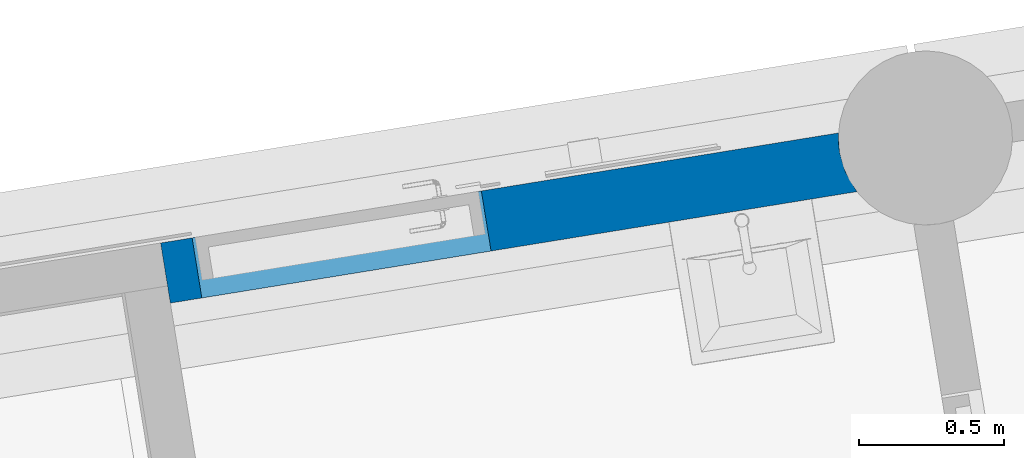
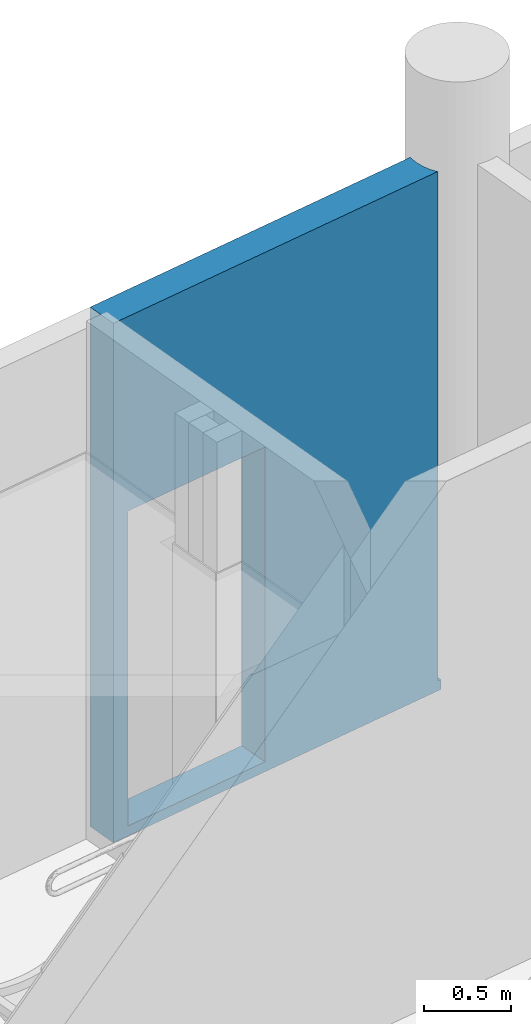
# One storey, part 26 of 38: 1 wall, 1 opening.
"""IFC2X3 building model written with IfcOpenShell, lengths in millimetres."""

from ifc_helpers import new_model, entity, si_unit, converted_unit, derived_unit, direction, frame, frame_2d, origin, origin_with_axes, place, context, subcontext, project, spatial, rectangle, extrude, faceted_brep, material, layer, layer_set, type_object, element, save


model = new_model("IFC2X3")

# Units and contexts
model_context = context("Model", 3, precision=0.01, world=origin(), true_north=direction((6.12323399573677e-17, 1.0)))
plan_context = context("Plan", 3, precision=1e-05, world=origin_with_axes())
body_context = subcontext(model_context, "Body", "Model", "MODEL_VIEW")
ifc_project = project(units=[converted_unit("PLANEANGLEUNIT", "DEGREE", entity("IfcPositiveLengthMeasure", 0.0174532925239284), si_unit("PLANEANGLEUNIT", "RADIAN"), dimensions=[0, 0, 0, 0, 0, 0, 0]), si_unit("AREAUNIT", "SQUARE_METRE"), si_unit("LENGTHUNIT", "METRE", prefix="MILLI"), si_unit("MASSUNIT", "GRAM", prefix="KILO"), si_unit("POWERUNIT", "WATT"), si_unit("PRESSUREUNIT", "PASCAL", prefix="KILO"), si_unit("FORCEUNIT", "NEWTON", prefix="KILO"), si_unit("ELECTRICVOLTAGEUNIT", "VOLT"), si_unit("ELECTRICCURRENTUNIT", "AMPERE"), si_unit("THERMODYNAMICTEMPERATUREUNIT", "DEGREE_CELSIUS"), si_unit("TIMEUNIT", "SECOND"), si_unit("VOLUMEUNIT", "CUBIC_METRE"), derived_unit("LINEARVELOCITYUNIT", [(si_unit("LENGTHUNIT", "METRE"), 1), (si_unit("TIMEUNIT", "SECOND"), -1)]), derived_unit("VOLUMETRICFLOWRATEUNIT", [(si_unit("VOLUMEUNIT", "CUBIC_METRE"), 1), (si_unit("TIMEUNIT", "SECOND"), -1)]), derived_unit("THERMALTRANSMITTANCEUNIT", [(si_unit("POWERUNIT", "WATT"), 1), (si_unit("THERMODYNAMICTEMPERATUREUNIT", "KELVIN"), -1), (si_unit("AREAUNIT", "SQUARE_METRE"), -1)]), derived_unit("SOUNDPRESSUREUNIT", [(si_unit("PRESSUREUNIT", "PASCAL"), 1)])], contexts=[model_context, plan_context])

# Site, building, storey
site_placement = place(None, frame((-0.00071070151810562, 0.00438415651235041, 0.0), z_axis=(0.0, 0.0, 1.0), x_axis=(-0.160236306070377, 0.987078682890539, 0.0)))
site = spatial("IfcSite", under=ifc_project, at=site_placement, Name="Default", CompositionType="ELEMENT")
building_placement = place(site_placement, origin_with_axes())
building = spatial("IfcBuilding", under=site, at=building_placement, Name="TOO", CompositionType="ELEMENT")
storey_placement = place(building_placement, frame((0.0, 0.0, 50999.9999999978), z_axis=(0.0, 0.0, 1.0), x_axis=(1.0, 0.0, 0.0)))
storey = spatial("IfcBuildingStorey", under=building, at=storey_placement, Name="Nivå D-H01", CompositionType="ELEMENT", Elevation=50999.9999999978)

# Wall, opening
ifc_material_1 = material(Name="A240 - Gipsplate")
ifc_layer_1 = layer(ifc_material_1, 12.5)
ifc_layer_2 = layer(ifc_material_1, 12.5)
ifc_material_2 = material(Name="A200 - Isolasjon - Rock Wool")
ifc_layer_3 = layer(ifc_material_2, 160.0)
ifc_layer_4 = layer(ifc_material_1, 12.5)
ifc_layer_5 = layer(ifc_material_1, 12.5)
ifc_layer_set = layer_set([ifc_layer_1, ifc_layer_2, ifc_layer_3, ifc_layer_4, ifc_layer_5], Name="Basic Wall:A242 - GG160/100GG")
wall_type = type_object("IfcWallType", Name="Basic Wall:A242 - GG160/100GG", PredefinedType="STANDARD", material=ifc_layer_set)
wall_placement = place(storey_placement, frame((779837.619644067, -594262.48173883, -70.0), z_axis=(0.0, 0.0, 1.0), x_axis=(0.0, 1.0, 0.0)))
wall = element("IfcWall", 1, at=wall_placement, inside=storey, type_object=wall_type, Name="Basic Wall:A242 - GG160/100GG", ObjectType="Basic Wall:A242 - GG160/100GG", context=body_context, shape_type="Brep", body=[
    faceted_brep([(337.75000000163, -105.0, 0.0), (462.75000000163, -105.0, 0.0), (52.8749329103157, -105.0, 70.0), (0.0, -105.0, 0.0), (1300.0, -105.0, 2270.0), (1082.75000000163, -105.0, 0.0), (1300.0, -105.0, 70.0), (1232.75000000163, -105.0, 0.0), (2310.0, -105.0, 70.0), (2420.0, -105.0, 0.0), (2310.0, -105.0, 2270.0), (2420.0, -105.0, 3630.0000000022), (52.8749329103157, -105.0, 3630.0000000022), (52.8749329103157, -105.0, 3327.60952093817), (52.8749329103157, -105.0, 3059.56191625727), (52.8749329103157, -105.0, 2774.3428743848), (52.8749329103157, -105.0, 2489.12383251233), (52.8749329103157, -105.0, 2186.73335344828), (52.8749329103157, -105.0, 1884.34287438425), (52.8749329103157, -105.0, 1581.95239532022), (52.8749329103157, -105.0, 1279.56191625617), (52.8749329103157, -105.0, 977.171437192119), (52.8749329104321, -105.0, 674.780958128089), (52.8749329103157, -105.0, 372.390479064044), (0.0, -105.0, 70.0), (2420.0, 105.0, 0.0), (2310.0, 105.0, 70.0), (2310.0, 105.0, 2270.0), (1300.0, 105.0, 70.0), (2420.0, 105.0, 3630.0000000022), (0.0, 105.0, 0.0), (22.6321597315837, 105.0, 70.0), (0.0, 105.0, 70.0), (1300.0, 105.0, 2270.0), (22.6321597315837, 105.0, 674.780955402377), (22.6321597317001, 105.0, 1279.56191080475), (22.6321597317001, 105.0, 1884.34286620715), (22.6321597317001, 105.0, 2489.12382160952), (22.6321597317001, 105.0, 3059.56191080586), (22.6321597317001, 105.0, 3630.0000000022), (2420.0, 45.0, 0.0), (2420.0, 45.0, 3630.0000000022), (43.1953222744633, 59.0005644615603, 3630.0000000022), (55.7699204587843, 10.2084421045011, 3630.0000000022), (60.0012399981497, -40.0, 3630.0000000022), (58.2143415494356, -72.6947406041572, 3630.0000000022), (58.2062160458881, -72.7687695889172, 70.0), (60.0012399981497, -40.0, 70.0), (55.7658329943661, 10.2325146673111, 70.0), (43.1912849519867, 59.0121125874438, 70.0), (58.3346027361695, -71.5785477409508, 1131.43446769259), (58.146098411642, -73.3113104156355, 848.749998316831), (58.2143415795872, -72.6947403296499, 443.695237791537), (60.0012399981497, -40.0, 737.500000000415), (60.0012399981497, -40.0, 674.780956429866), (60.0012399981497, -40.0, 515.0), (60.0012399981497, -40.0, 372.390478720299), (58.2143415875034, -72.6947402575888, 3193.5857187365), (60.0012399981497, -40.0, 3327.60952128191), (60.0012399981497, -40.0, 3025.21904256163), (58.0700153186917, -73.9853671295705, 2631.73335417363), (58.1291355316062, -73.4627838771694, 2378.8571774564), (58.0788687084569, -73.9076283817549, 1374.55477544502), (58.0938401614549, -73.7757565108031, 2937.32894315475), (60.0012399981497, -40.0, 2740.00000000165), (58.6392488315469, -68.5541534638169, 3411.7928593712), (58.3992758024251, -70.9614635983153, 2035.53811419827), (60.0012399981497, -40.0, 960.0), (60.0012399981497, -40.0, 1627.50000000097), (60.0012399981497, -40.0, 1405.0), (60.0012399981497, -40.0, 1279.56191285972), (60.0012399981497, -40.0, 1182.50000000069), (58.0665147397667, -74.0160549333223, 1738.74999980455), (60.0012399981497, -40.0, 2517.50000000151), (60.0012399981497, -40.0, 1850.00000000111), (60.0012399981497, -40.0, 2072.50000000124), (60.0012399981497, -40.0, 2295.00000000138), (60.0012399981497, -40.0, 2420.43808714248), (50.5087922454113, 34.8689661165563, 2868.52029026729), (51.1526374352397, 32.3247106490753, 2135.21904343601), (50.5042183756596, 34.8867114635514, 854.886860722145), (52.8201899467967, 25.2461688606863, 1493.53364560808)], [[[0, 1, 2]], [[3, 0, 2]], [[2, 1, 4]], [[4, 1, 5]], [[4, 5, 6]], [[6, 5, 7]], [[7, 8, 6]], [[7, 9, 8]], [[8, 9, 10]], [[11, 10, 9]], [[10, 11, 4]], [[4, 11, 12]], [[4, 12, 13]], [[4, 13, 14]], [[4, 14, 15]], [[4, 15, 16]], [[4, 16, 17]], [[4, 17, 18]], [[4, 18, 19]], [[4, 19, 20]], [[4, 20, 21]], [[4, 21, 22]], [[4, 22, 23]], [[4, 23, 2]], [[2, 24, 3]], [[25, 26, 27]], [[26, 25, 28]], [[27, 29, 25]], [[25, 30, 28]], [[31, 28, 30]], [[30, 32, 31]], [[33, 28, 31]], [[33, 31, 34]], [[33, 34, 35]], [[33, 35, 36]], [[33, 36, 37]], [[33, 37, 38]], [[33, 38, 39]], [[33, 39, 29]], [[33, 29, 27]], [[1, 0, 3, 30, 25, 40, 9, 7, 5]], [[11, 41, 29, 39, 42, 43, 44, 45, 12]], [[3, 24, 32, 30]], [[26, 8, 10, 27]], [[27, 10, 4, 33]], [[33, 4, 6, 28]], [[26, 28, 6, 8]], [[46, 47, 48, 49, 31, 32, 24, 2]], [[21, 50, 51]], [[52, 53, 54, 55, 56]], [[57, 58, 59]], [[46, 52, 56]], [[13, 57, 14]], [[22, 52, 23]], [[46, 2, 23]], [[15, 60, 16]], [[56, 47, 46]], [[60, 61, 16]], [[62, 50, 20]], [[57, 59, 63]], [[59, 64, 63]], [[65, 58, 57]], [[18, 17, 66]], [[53, 52, 51]], [[65, 13, 12]], [[65, 45, 44]], [[13, 65, 57]], [[67, 51, 50]], [[23, 52, 46]], [[21, 20, 50]], [[51, 22, 21]], [[51, 67, 53]], [[22, 51, 52]], [[62, 68, 69, 70, 71]], [[72, 18, 66]], [[50, 62, 71]], [[14, 57, 63]], [[63, 15, 14]], [[63, 60, 15]], [[60, 73, 61]], [[74, 68, 72]], [[64, 60, 63]], [[58, 65, 44]], [[75, 74, 66, 76]], [[76, 66, 61]], [[61, 17, 16]], [[17, 61, 66]], [[66, 74, 72]], [[72, 19, 18]], [[62, 20, 19]], [[62, 72, 68]], [[19, 72, 62]], [[61, 73, 77, 76]], [[60, 64, 73]], [[12, 45, 65]], [[71, 67, 50]], [[78, 37, 79]], [[80, 81, 35]], [[77, 78, 79]], [[54, 80, 48]], [[80, 54, 53, 67, 71, 70]], [[81, 80, 70]], [[43, 42, 78]], [[49, 48, 80]], [[39, 38, 42]], [[78, 59, 43]], [[78, 42, 38]], [[48, 47, 56, 55, 54]], [[80, 34, 49]], [[79, 74, 75, 76, 77]], [[81, 70, 69, 68, 74]], [[79, 36, 81]], [[31, 49, 34]], [[80, 35, 34]], [[38, 37, 78]], [[43, 59, 58, 44]], [[78, 77, 73, 64, 59]], [[79, 81, 74]], [[35, 81, 36]], [[79, 37, 36]], [[40, 25, 29, 41, 11, 9]]]),
])
opening_placement = place(wall_placement, frame((2309.99999999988, 105.000000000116, 70.0), z_axis=(0.0, 0.0, 1.0), x_axis=(1.0, 0.0, 0.0)))
element("IfcOpeningElement", 2, at=opening_placement, cuts=wall, Name="A200 - Slagdør - Enfløyet:A244 - DI_LSO - 0990 x 2190 mm:1", ObjectType="Opening", context=body_context, shape_type="SweptSolid", body=[
    extrude(rectangle(XDim=2199.99999999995, YDim=1010.0, at=frame_2d((1099.99999999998, 504.999999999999), x_axis=(1.0, 0.0))), frame((0.0, 0.0, 0.0), z_axis=(0.0, -1.0, 0.0), x_axis=(0.0, 0.0, 1.0)), (0.0, 0.0, 1.0), 210.0),
])

save(model, "model.ifc")
